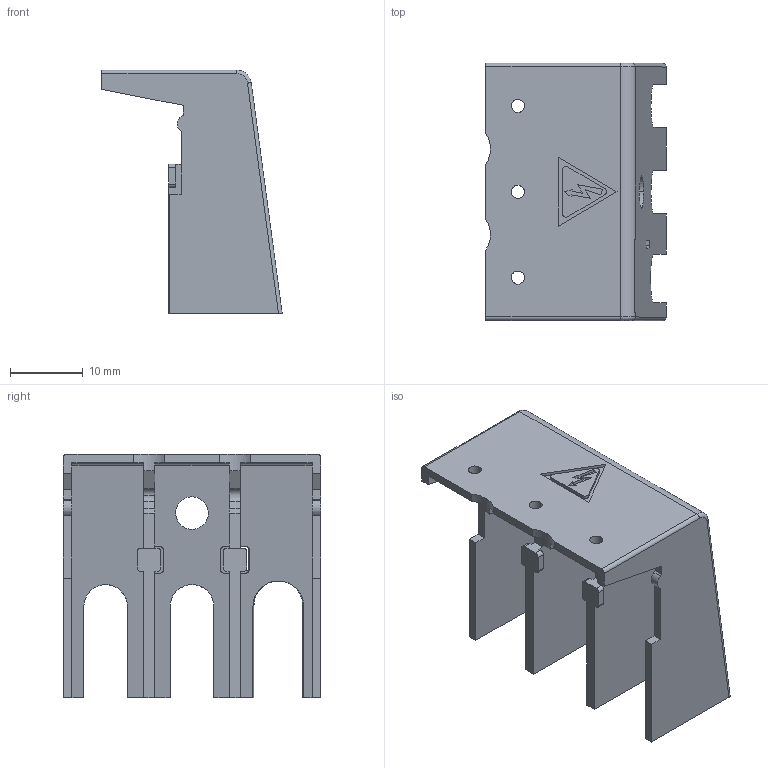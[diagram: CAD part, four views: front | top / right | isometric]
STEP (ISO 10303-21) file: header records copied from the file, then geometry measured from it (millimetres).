
FILE_DESCRIPTION (( 'STEP AP203' ), '1' );
FILE_NAME ('NF2-40TS3.STEP', '2024-03-01T04:40:36', ( 'wzjh' ), ( '' ), 'SwSTEP 2.0', 'SolidWorks 2023', '' );
FILE_SCHEMA (( 'CONFIG_CONTROL_DESIGN' ));
Length unit declared in the file: millimetre
Products named in the file (1): NF2-40TS3
Bounding box: 24.86 x 35.5 x 33.62 mm (x, y, z)
Volume: 3854.1 mm3; surface area: 6714 mm2
Topology: 1 solids, 1 shells, 151 faces, 442 edges, 295 vertices
Faces by surface type: plane 99, cylinder 37, bspline 13, torus 2
Entity records: 5568 total; most frequent: CARTESIAN_POINT 1609, ORIENTED_EDGE 884, DIRECTION 704, EDGE_CURVE 442, VECTOR 314, LINE 314, VERTEX_POINT 295, AXIS2_PLACEMENT_3D 195
